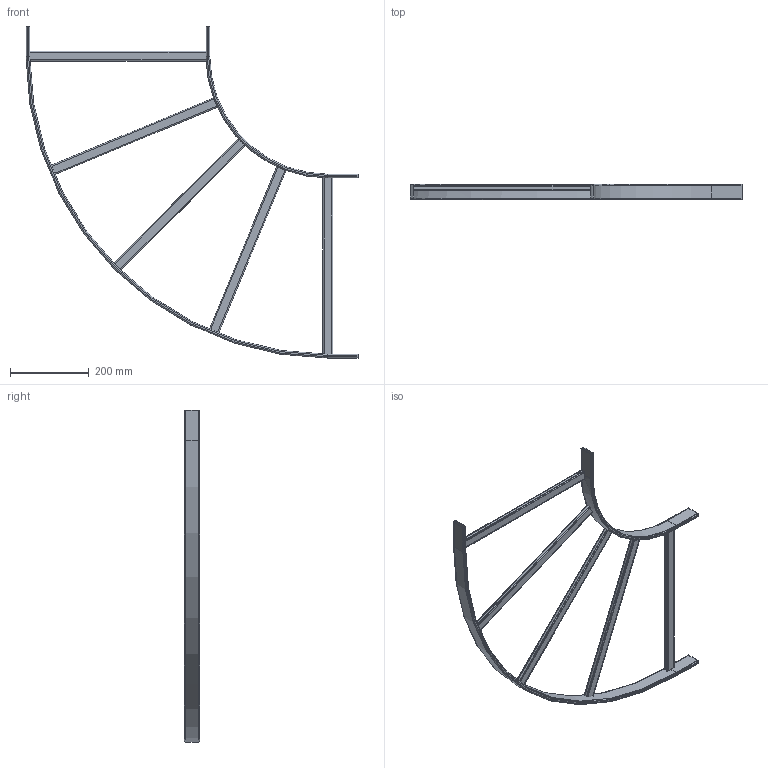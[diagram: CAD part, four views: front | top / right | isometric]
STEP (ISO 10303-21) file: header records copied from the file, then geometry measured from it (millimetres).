
FILE_DESCRIPTION (( 'STEP AP203' ), '1' );
FILE_NAME ('l90hb18gz.STEP', '2022-06-30T18:01:25', ( '' ), ( '' ), 'SwSTEP 2.0', 'SolidWorks 2020', '' );
FILE_SCHEMA (( 'CONFIG_CONTROL_DESIGN' ));
Length unit declared in the file: inch
Products named in the file (1): l90hb18gz
Bounding box: 842.96 x 38.1 x 842.96 mm (x, y, z)
Volume: 446420.5 mm3; surface area: 640154.1 mm2
Topology: 5 solids, 6 shells, 193 faces, 480 edges, 298 vertices
Faces by surface type: cylinder 89, plane 88, torus 16
Entity records: 6491 total; most frequent: CARTESIAN_POINT 1812, DIRECTION 960, ORIENTED_EDGE 960, EDGE_CURVE 480, AXIS2_PLACEMENT_3D 346, VERTEX_POINT 298, VECTOR 268, LINE 268
